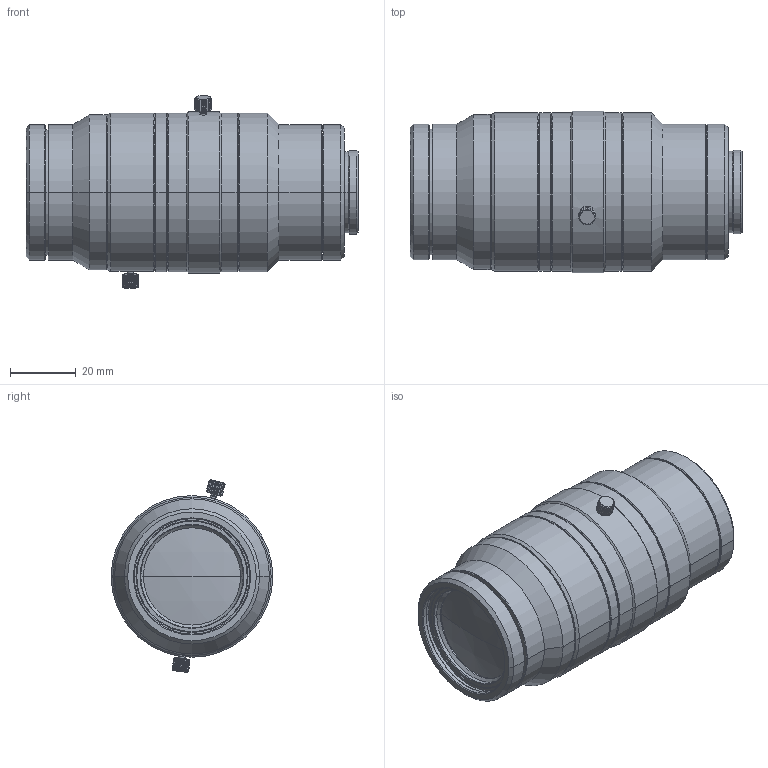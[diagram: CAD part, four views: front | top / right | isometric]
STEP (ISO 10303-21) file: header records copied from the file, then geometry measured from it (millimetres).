
FILE_DESCRIPTION (( 'STEP AP214' ), '1' );
FILE_NAME ('VS-H5024-IRC_11_Drawing_M2027A-A001--(DRAFT) .STEP', '2021-12-14T01:03:56', ( '' ), ( '' ), 'SwSTEP 2.0', 'SolidWorks 2021', '' );
FILE_SCHEMA (( 'AUTOMOTIVE_DESIGN' ));
Length unit declared in the file: millimetre
Products named in the file (1): VS-H5024-IRC_11_Drawing_M2027A-A001--(DRAFT) 
Bounding box: 100.67 x 49 x 58.44 mm (x, y, z)
Volume: 144517.2 mm3; surface area: 22243.6 mm2
Topology: 1 solids, 1 shells, 313 faces, 740 edges, 454 vertices
Faces by surface type: plane 121, cone 114, cylinder 74, sphere 4
Entity records: 9192 total; most frequent: CARTESIAN_POINT 2148, ORIENTED_EDGE 1480, DIRECTION 1432, EDGE_CURVE 740, AXIS2_PLACEMENT_3D 574, VERTEX_POINT 454, EDGE_LOOP 338, FACE_OUTER_BOUND 313
